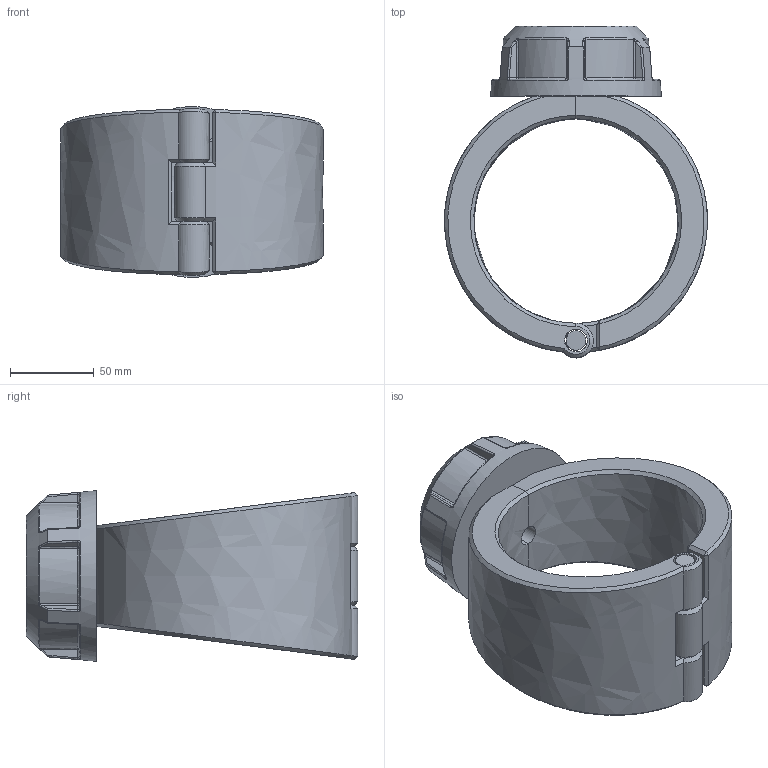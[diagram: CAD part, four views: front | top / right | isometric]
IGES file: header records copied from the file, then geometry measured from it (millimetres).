
Global section: file name: 163000122007; native system: Autodesk Inventor 2019; preprocessor: unknown; author: comp2; date: 20220203.114819; units: millimetre
Bounding box: 156.99 x 198 x 101.86 mm (x, y, z)
Volume: 838288.3 mm3; surface area: 124808.8 mm2
Topology: 4 solids, 4 shells, 203 faces, 486 edges, 293 vertices
Faces by surface type: bspline 203
